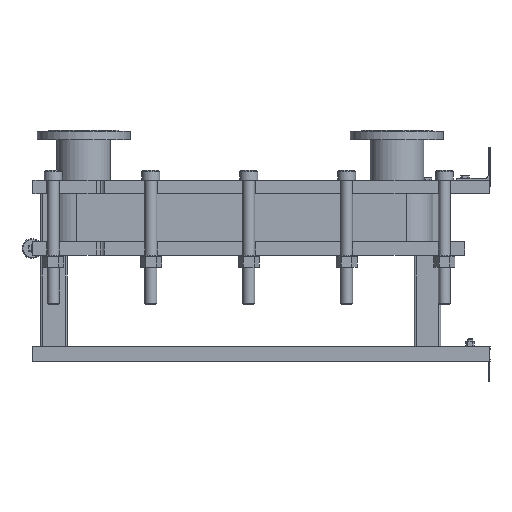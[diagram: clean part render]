
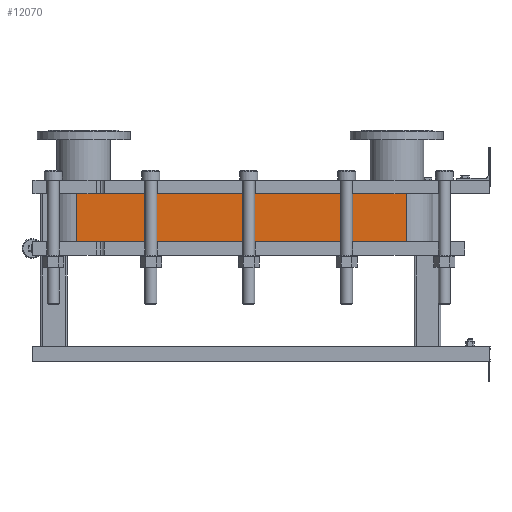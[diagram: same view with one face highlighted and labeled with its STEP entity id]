
A CAD part, left-side view. The second image highlights one B-rep face of the part: STEP entity #12070.
In plain terms, the highlighted planar face has unit normal (-1, 0, 0).
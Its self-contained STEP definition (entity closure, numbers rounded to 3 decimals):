
#1064=LINE('',#21140,#2164);
#1065=LINE('',#21144,#2165);
#1066=LINE('',#21146,#2166);
#1067=LINE('',#21147,#2167);
#2164=VECTOR('',#15790,10.);
#2165=VECTOR('',#15795,10.);
#2166=VECTOR('',#15796,10.);
#2167=VECTOR('',#15797,10.);
#3304=FACE_OUTER_BOUND('',#4091,.T.);
#4091=EDGE_LOOP('',(#9793,#9794,#9795,#9796));
#5677=VERTEX_POINT('',#21137);
#5678=VERTEX_POINT('',#21139);
#5679=VERTEX_POINT('',#21143);
#5680=VERTEX_POINT('',#21145);
#7118=EDGE_CURVE('',#5678,#5677,#1064,.T.);
#7120=EDGE_CURVE('',#5677,#5679,#1065,.T.);
#7121=EDGE_CURVE('',#5680,#5679,#1066,.T.);
#7122=EDGE_CURVE('',#5680,#5678,#1067,.T.);
#9793=ORIENTED_EDGE('',*,*,#7120,.T.);
#9794=ORIENTED_EDGE('',*,*,#7121,.F.);
#9795=ORIENTED_EDGE('',*,*,#7122,.T.);
#9796=ORIENTED_EDGE('',*,*,#7118,.T.);
#11441=PLANE('',#13191);
#12070=ADVANCED_FACE('',(#3304),#11441,.T.);
#13191=AXIS2_PLACEMENT_3D('',#21142,#15793,#15794);
#15790=DIRECTION('',(0.,0.,-1.));
#15793=DIRECTION('center_axis',(-1.,0.,0.));
#15794=DIRECTION('ref_axis',(0.,1.,0.));
#15795=DIRECTION('',(0.,-1.,0.));
#15796=DIRECTION('',(0.,0.,-1.));
#15797=DIRECTION('',(0.,1.,0.));
#21137=CARTESIAN_POINT('',(-248.152,1243.818,-144.9));
#21139=CARTESIAN_POINT('',(-248.152,1243.818,0.));
#21140=CARTESIAN_POINT('',(-248.152,1243.818,0.));
#21142=CARTESIAN_POINT('Origin',(-248.152,251.818,0.));
#21143=CARTESIAN_POINT('',(-248.152,251.818,-144.9));
#21144=CARTESIAN_POINT('',(-248.152,499.818,-144.9));
#21145=CARTESIAN_POINT('',(-248.152,251.818,0.));
#21146=CARTESIAN_POINT('',(-248.152,251.818,0.));
#21147=CARTESIAN_POINT('',(-248.152,251.818,0.));
